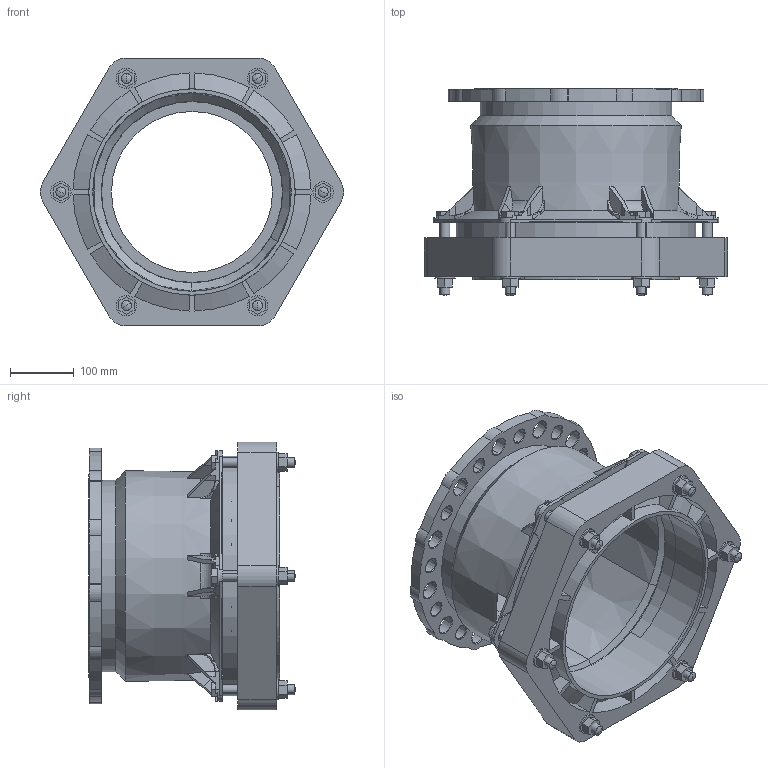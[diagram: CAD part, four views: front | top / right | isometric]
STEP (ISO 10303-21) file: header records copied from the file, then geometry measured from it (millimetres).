
FILE_DESCRIPTION((''),'2;1');
FILE_NAME('BIM_13199_11_ASM','2020-04-01T',('MReader'),(''),'CREO PARAMETRIC BY PTC INC, 2016130','CREO PARAMETRIC BY PTC INC, 2016130','');
FILE_SCHEMA(('CONFIG_CONTROL_DESIGN'));
Length unit declared in the file: millimetre
Products named in the file (5): NEW_BIM_12228; BIM_M16_BOLT_120; BIM_12294; BIM_13129_9; BIM_13199_11_ASM
Assembly tree (9 placements, depth 2):
  BIM_13199_11_ASM
    NEW_BIM_12228
    BIM_M16_BOLT_120  x6
    BIM_12294
    BIM_13129_9
Bounding box: 476.1 x 325 x 420.89 mm (x, y, z)
Volume: 8209791.8 mm3; surface area: 1270250.3 mm2
Topology: 9 solids, 9 shells, 687 faces, 1884 edges, 1224 vertices
Faces by surface type: plane 285, cylinder 144, torus 132, cone 114, sphere 12
Entity records: 21697 total; most frequent: CARTESIAN_POINT 5184, DIRECTION 3512, ORIENTED_EDGE 3484, EDGE_CURVE 1742, AXIS2_PLACEMENT_3D 1423, VERTEX_POINT 1139, CIRCLE 782, EDGE_LOOP 709
